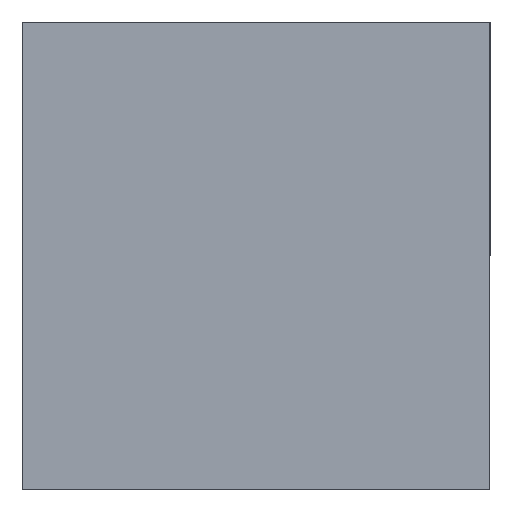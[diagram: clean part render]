
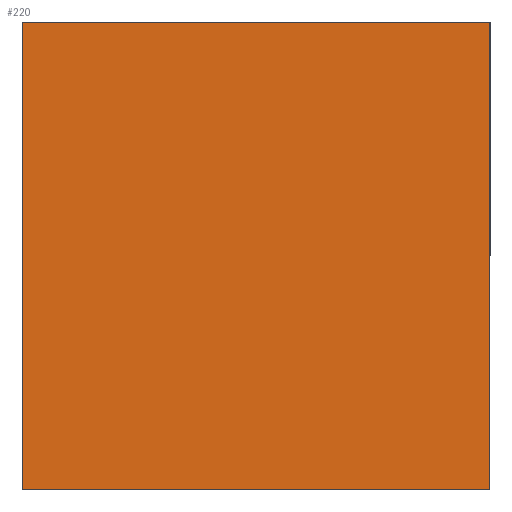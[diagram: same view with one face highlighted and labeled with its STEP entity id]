
A CAD part, left-side view. The second image highlights one B-rep face of the part: STEP entity #220.
In plain terms, the highlighted planar face has unit normal (-1, 0, 0).
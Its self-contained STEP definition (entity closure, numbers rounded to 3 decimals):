
#7 = DIRECTION ( 'NONE',  ( 0., 0., -1. ) ) ;
#13 = ORIENTED_EDGE ( 'NONE', *, *, #376, .F. ) ;
#14 = CARTESIAN_POINT ( 'NONE',  ( -0.9, 1., -0.5 ) ) ;
#31 = PLANE ( 'NONE',  #409 ) ;
#44 = CARTESIAN_POINT ( 'NONE',  ( -0.9, 0., 0.5 ) ) ;
#70 = VERTEX_POINT ( 'NONE', #226 ) ;
#72 = CARTESIAN_POINT ( 'NONE',  ( -0.9, 1., -0.5 ) ) ;
#74 = VECTOR ( 'NONE', #115, 1000. ) ;
#80 = DIRECTION ( 'NONE',  ( 0., 0., -1. ) ) ;
#101 = CARTESIAN_POINT ( 'NONE',  ( -0.9, 3.04, -0.48 ) ) ;
#115 = DIRECTION ( 'NONE',  ( 0., 1., 0. ) ) ;
#135 = ORIENTED_EDGE ( 'NONE', *, *, #285, .F. ) ;
#145 = LINE ( 'NONE', #72, #173 ) ;
#161 = CARTESIAN_POINT ( 'NONE',  ( -0.9, 0., 0.5 ) ) ;
#164 = ORIENTED_EDGE ( 'NONE', *, *, #314, .F. ) ;
#167 = CARTESIAN_POINT ( 'NONE',  ( -0.9, 1., 0.5 ) ) ;
#173 = VECTOR ( 'NONE', #293, 1000. ) ;
#198 = ORIENTED_EDGE ( 'NONE', *, *, #468, .F. ) ;
#220 = ADVANCED_FACE ( 'NONE', ( #261 ), #31, .F. ) ;
#226 = CARTESIAN_POINT ( 'NONE',  ( -0.9, 0., -0.5 ) ) ;
#234 = VECTOR ( 'NONE', #392, 1000. ) ;
#239 = LINE ( 'NONE', #360, #234 ) ;
#249 = VERTEX_POINT ( 'NONE', #14 ) ;
#254 = DIRECTION ( 'NONE',  ( 1., 0., 0. ) ) ;
#261 = FACE_OUTER_BOUND ( 'NONE', #440, .T. ) ;
#279 = VERTEX_POINT ( 'NONE', #167 ) ;
#285 = EDGE_CURVE ( 'NONE', #364, #70, #319, .T. ) ;
#292 = CARTESIAN_POINT ( 'NONE',  ( -0.9, 0., -0.5 ) ) ;
#293 = DIRECTION ( 'NONE',  ( 0., 0., 1. ) ) ;
#314 = EDGE_CURVE ( 'NONE', #279, #364, #239, .T. ) ;
#319 = LINE ( 'NONE', #161, #334 ) ;
#334 = VECTOR ( 'NONE', #7, 1000. ) ;
#360 = CARTESIAN_POINT ( 'NONE',  ( -0.9, 1., 0.5 ) ) ;
#364 = VERTEX_POINT ( 'NONE', #44 ) ;
#376 = EDGE_CURVE ( 'NONE', #70, #249, #484, .T. ) ;
#392 = DIRECTION ( 'NONE',  ( 0., -1., 0. ) ) ;
#409 = AXIS2_PLACEMENT_3D ( 'NONE', #101, #254, #80 ) ;
#440 = EDGE_LOOP ( 'NONE', ( #13, #135, #164, #198 ) ) ;
#468 = EDGE_CURVE ( 'NONE', #249, #279, #145, .T. ) ;
#484 = LINE ( 'NONE', #292, #74 ) ;
